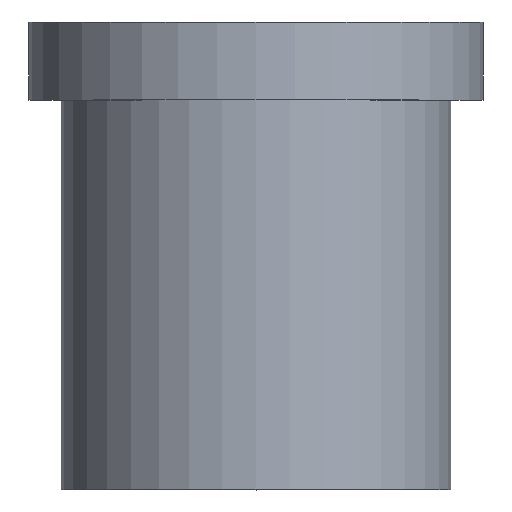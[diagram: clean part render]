
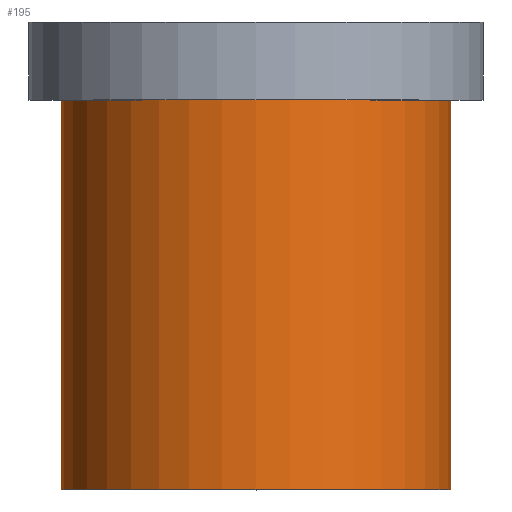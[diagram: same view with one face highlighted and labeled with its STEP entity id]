
A CAD part, top view. The second image highlights one B-rep face of the part: STEP entity #195.
In plain terms, the highlighted cylindrical face has radius 15 mm (diameter 30 mm), a full revolution.
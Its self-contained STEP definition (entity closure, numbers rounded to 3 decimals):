
#32=ORIENTED_EDGE('',*,*,#50,.T.);
#33=ORIENTED_EDGE('',*,*,#49,.F.);
#49=EDGE_CURVE('',#59,#59,#69,.T.);
#50=EDGE_CURVE('',#60,#60,#70,.T.);
#59=VERTEX_POINT('',#280);
#60=VERTEX_POINT('',#283);
#69=CIRCLE('',#213,15.);
#70=CIRCLE('',#215,15.);
#82=EDGE_LOOP('',(#32));
#83=EDGE_LOOP('',(#33));
#102=FACE_BOUND('',#82,.T.);
#103=FACE_BOUND('',#83,.T.);
#117=CYLINDRICAL_SURFACE('',#214,15.);
#195=ADVANCED_FACE('',(#102,#103),#117,.T.);
#213=AXIS2_PLACEMENT_3D('',#279,#241,#242);
#214=AXIS2_PLACEMENT_3D('',#281,#243,#244);
#215=AXIS2_PLACEMENT_3D('',#282,#245,#246);
#241=DIRECTION('',(0.,-1.,0.));
#242=DIRECTION('',(0.,0.,-1.));
#243=DIRECTION('',(0.,-1.,0.));
#244=DIRECTION('',(0.,0.,-1.));
#245=DIRECTION('',(0.,-1.,0.));
#246=DIRECTION('',(0.,0.,-1.));
#279=CARTESIAN_POINT('',(0.,0.,0.));
#280=CARTESIAN_POINT('',(0.,0.,-15.));
#281=CARTESIAN_POINT('',(0.,0.,0.));
#282=CARTESIAN_POINT('',(0.,30.,0.));
#283=CARTESIAN_POINT('',(0.,30.,-15.));
